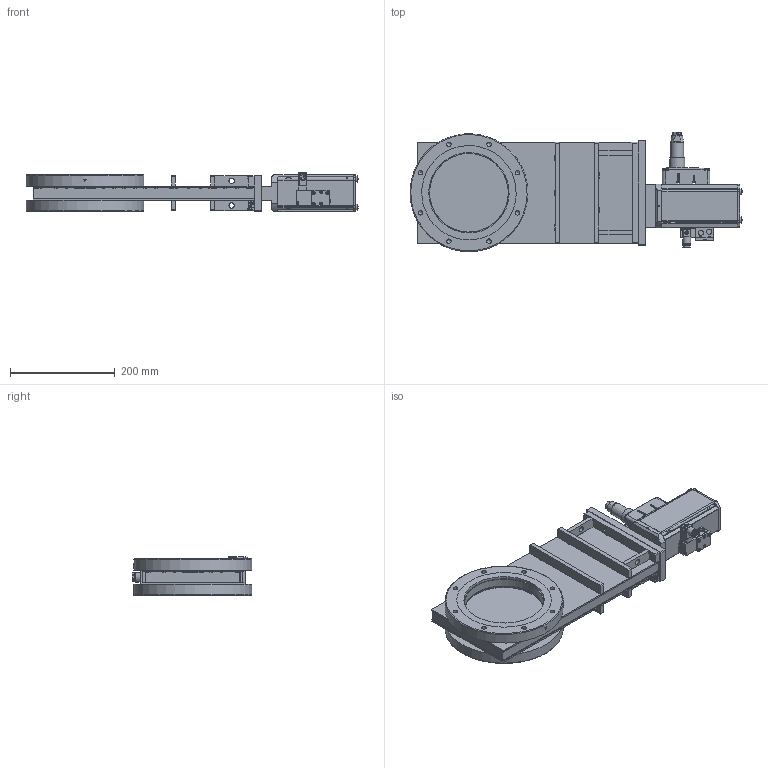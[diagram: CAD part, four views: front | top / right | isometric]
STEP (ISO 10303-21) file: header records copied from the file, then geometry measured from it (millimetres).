
FILE_DESCRIPTION(/* description */ (''),/* implementation_level */ '2;1');
FILE_NAME(/* name */ '1727448876_203.stp',/* time_stamp */ '2021-11-11T11:31:07+01:00',/* author */ (''),/* organization */ (''),/* preprocessor_version */ 'ST-DEVELOPER v16.7',/* originating_system */ 'SIEMENS PLM Software NX 1915',/* authorisation */ '');
FILE_SCHEMA (('AP203_CONFIGURATION_CONTROLLED_3D_DESIGN_OF_MECHANICAL_PARTS_AND_ASSEMBLIES_MIM_LF { 1 0 10303 403 2 1 2}'));
Products named in the file (45): 982213; 467882; 437235; 804858_31811ID; 804850_31834ID; 804857_31832ID; 804857_31831ID; 804844_31830ID; 804853_31829ID; 804858_31828ID; 804844_31827ID; 804857_31825ID; 804858_31824ID; 804853_31823ID; 804845_31821ID; 804845_31820ID; 804857_31818ID; 804858_31812ID; N-7557-016_1.1; N-7557-018.1; N-7557-016_2.1; N-6024-524.1; N-5018-005.1; n-6099-492.1; 23550-01.1_31614ID; 23550-01.1; n-6011-049.1; 70973-01.1; n-6024-548.1; n-8504-002; N-6024-571.1; 85948-01.1; 94223-01.1; 73004-01.1; 348352.1; 916524; 501138; 218198.1; N-7557-016_3.1_MODELNX-ARRAGMNTArrangement 1; 94800-r1.7_NX-ARRAGMNTKONFIG1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
Assembly tree (66 placements, depth 4):
  923170
    94236-r1.3
      73004-01.1  x4
      94223-01.1
      85948-01.1
      N-6024-571.1  x4
    81045-r1.2_MODEL
      n-8504-002
      n-6024-548.1  x4
      70973-01.1
      n-6011-049.1  x2
    218198.1  x6
    23443-r1.1_MODEL
      804898_MODEL
        804858_31812ID
        804857_31818ID
        804845_31820ID
        804845_31821ID
        804853_31823ID
        804858_31824ID
        804857_31825ID
        804844_31827ID
        804858_31828ID
        804853_31829ID
        804844_31830ID
        804857_31831ID
        804857_31832ID
        804850_31834ID
        804858_31811ID
      23550-01.1
      23550-01.1_31614ID
      n-6099-492.1  x2
    501138
    916524
    348352.1
    94800-r1.7_NX-ARRAGMNTKONFIG1
      N-5018-005.1  x2
      N-6024-524.1  x6
      N-7557-016_2.1
      N-7557-018.1
      N-7557-016_1.1
      N-7557-016_3.1_MODELNX-ARRAGMNTArrangement 1
        437235
        467882
        982213
Bounding box: 632.91 x 227.88 x 74.53 mm (x, y, z)
Volume: 2710514.1 mm3; surface area: 841849.9 mm2
Topology: 226 solids, 226 shells, 2816 faces, 6603 edges, 4412 vertices
Faces by surface type: plane 2000, cylinder 503, cone 127, torus 81, extrusion 61, sphere 22, bspline 22
Full cylindrical faces by diameter (mm): 0.5 x1, 1.66 x7, 2 x1, 2.125 x1, 2.46 x2, 2.5 x8, 2.65 x1, 3 x15, 3.2 x2, 3.3 x4, 3.4 x4, 3.5 x3, 3.8 x2, 4 x6, 4.2 x4, 4.22 x1, 4.35 x2, 4.4 x4, 4.45 x4, 4.5 x2, 4.625 x2, 5 x5, 5.2 x4, 5.3 x1, 5.4 x1, 5.9 x1, 6 x23, 6.35 x2, 6.6 x4, 6.625 x2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
Entity records: 80359 total; most frequent: CARTESIAN_POINT 20455, DIRECTION 10614, ORIENTED_EDGE 10436, EDGE_CURVE 5218, VERTEX_POINT 3715, VECTOR 3562, AXIS2_PLACEMENT_3D 3526, LINE 3501
